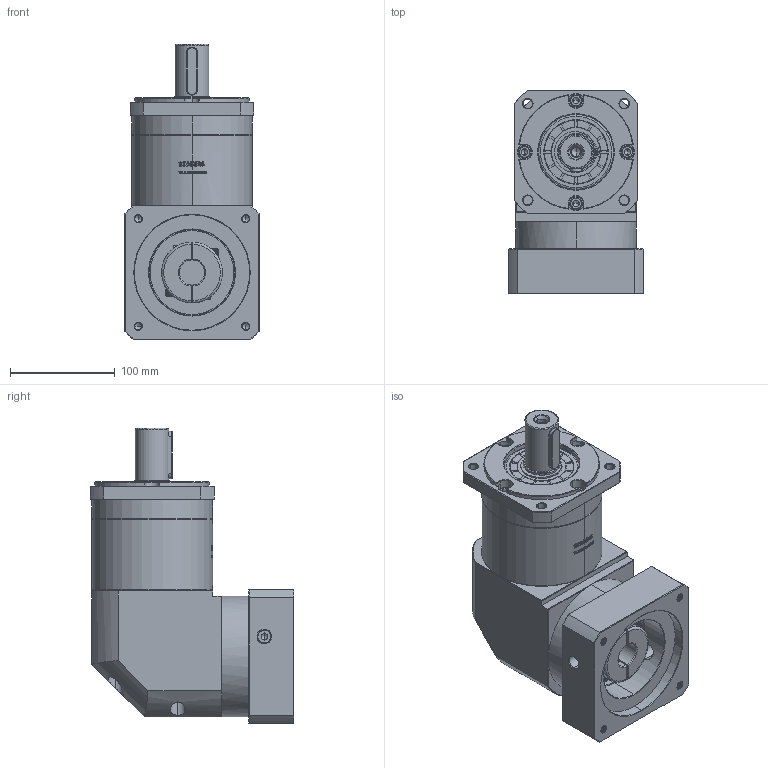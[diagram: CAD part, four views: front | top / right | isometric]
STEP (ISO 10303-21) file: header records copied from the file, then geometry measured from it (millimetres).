
FILE_DESCRIPTION (( 'STEP AP214' ), '1' );
FILE_NAME ('ZFR120A-D32-L2-24-110-145-M8.step', '2023-03-08T08:26:33', ( '' ), ( '' ), 'SwSTEP 2.0', 'SolidWorks 2016', '' );
FILE_SCHEMA (( 'AUTOMOTIVE_DESIGN' ));
Length unit declared in the file: millimetre
Products named in the file (1): ZFR120A-D32-L2-24-110-145-M8
Bounding box: 128 x 193.9 x 281.5 mm (x, y, z)
Volume: 3287153 mm3; surface area: 262792.5 mm2
Topology: 6 solids, 6 shells, 2870 faces, 7678 edges, 4953 vertices
Faces by surface type: plane 1484, bspline 606, cylinder 434, cone 338, torus 8
Entity records: 158140 total; most frequent: CARTESIAN_POINT 60743, ORIENTED_EDGE 15296, DIRECTION 11128, EDGE_CURVE 7648, VERTEX_POINT 4953, VECTOR 4750, LINE 4750, AXIS2_PLACEMENT_3D 3189
